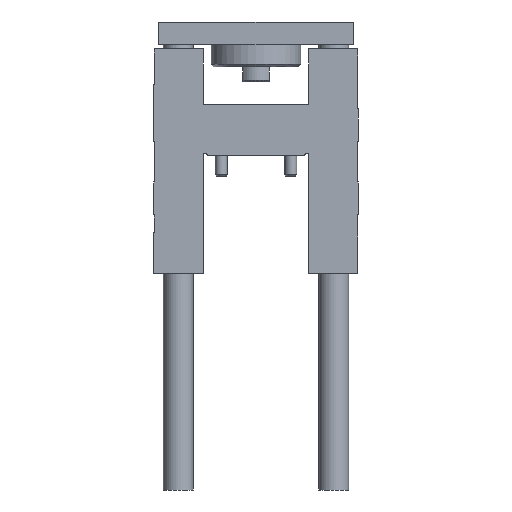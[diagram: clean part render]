
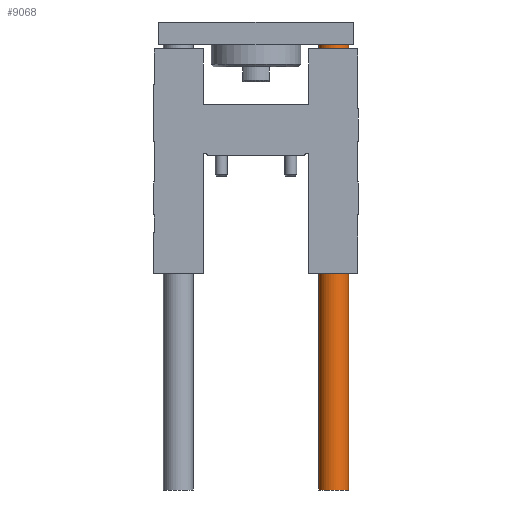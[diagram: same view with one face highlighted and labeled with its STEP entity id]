
A CAD part, front view. The second image highlights one B-rep face of the part: STEP entity #9068.
In plain terms, the highlighted cylindrical face has radius 10 mm (diameter 20 mm), a partial arc.
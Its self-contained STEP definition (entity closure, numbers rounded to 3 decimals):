
#79 = DIRECTION ( 'NONE',  ( 0., 0., -1. ) ) ;
#114 = CARTESIAN_POINT ( 'NONE',  ( 52., 0., -224. ) ) ;
#136 = CARTESIAN_POINT ( 'NONE',  ( 52., 0., -224. ) ) ;
#150 = DIRECTION ( 'NONE',  ( 0., 0., 1. ) ) ;
#721 = EDGE_CURVE ( 'NONE', #8387, #4354, #7406, .T. ) ;
#795 = DIRECTION ( 'NONE',  ( 1., 0., 0. ) ) ;
#1235 = VERTEX_POINT ( 'NONE', #7683 ) ;
#1417 = VECTOR ( 'NONE', #9232, 1000. ) ;
#1533 = AXIS2_PLACEMENT_3D ( 'NONE', #136, #79, #795 ) ;
#2501 = LINE ( 'NONE', #4964, #1417 ) ;
#2599 = CIRCLE ( 'NONE', #8179, 10. ) ;
#2652 = DIRECTION ( 'NONE',  ( 1., 0., 0. ) ) ;
#2749 = DIRECTION ( 'NONE',  ( 0., 0., -1. ) ) ;
#3013 = VECTOR ( 'NONE', #2749, 1000. ) ;
#3382 = CARTESIAN_POINT ( 'NONE',  ( 62., 0., -224. ) ) ;
#3386 = FACE_OUTER_BOUND ( 'NONE', #8778, .T. ) ;
#3478 = DIRECTION ( 'NONE',  ( 0., 0., 1. ) ) ;
#4278 = DIRECTION ( 'NONE',  ( 1., 0., 0. ) ) ;
#4281 = EDGE_CURVE ( 'NONE', #4321, #4354, #2501, .T. ) ;
#4321 = VERTEX_POINT ( 'NONE', #6596 ) ;
#4354 = VERTEX_POINT ( 'NONE', #3382 ) ;
#4792 = EDGE_CURVE ( 'NONE', #1235, #8387, #7120, .T. ) ;
#4964 = CARTESIAN_POINT ( 'NONE',  ( 62., 0., -224. ) ) ;
#5189 = CYLINDRICAL_SURFACE ( 'NONE', #1533, 10. ) ;
#6528 = ORIENTED_EDGE ( 'NONE', *, *, #721, .T. ) ;
#6596 = CARTESIAN_POINT ( 'NONE',  ( 62., 0., 74. ) ) ;
#6783 = CARTESIAN_POINT ( 'NONE',  ( 52., 0., 74. ) ) ;
#7120 = LINE ( 'NONE', #7801, #3013 ) ;
#7406 = CIRCLE ( 'NONE', #7781, 10. ) ;
#7445 = ORIENTED_EDGE ( 'NONE', *, *, #4281, .F. ) ;
#7683 = CARTESIAN_POINT ( 'NONE',  ( 42., 0., 74. ) ) ;
#7781 = AXIS2_PLACEMENT_3D ( 'NONE', #114, #3478, #2652 ) ;
#7801 = CARTESIAN_POINT ( 'NONE',  ( 42., 0., -224. ) ) ;
#7811 = ORIENTED_EDGE ( 'NONE', *, *, #8715, .F. ) ;
#8179 = AXIS2_PLACEMENT_3D ( 'NONE', #6783, #150, #4278 ) ;
#8295 = ORIENTED_EDGE ( 'NONE', *, *, #4792, .T. ) ;
#8387 = VERTEX_POINT ( 'NONE', #10576 ) ;
#8715 = EDGE_CURVE ( 'NONE', #1235, #4321, #2599, .T. ) ;
#8778 = EDGE_LOOP ( 'NONE', ( #7811, #8295, #6528, #7445 ) ) ;
#9068 = ADVANCED_FACE ( 'NONE', ( #3386 ), #5189, .T. ) ;
#9232 = DIRECTION ( 'NONE',  ( 0., 0., -1. ) ) ;
#10576 = CARTESIAN_POINT ( 'NONE',  ( 42., 0., -224. ) ) ;
